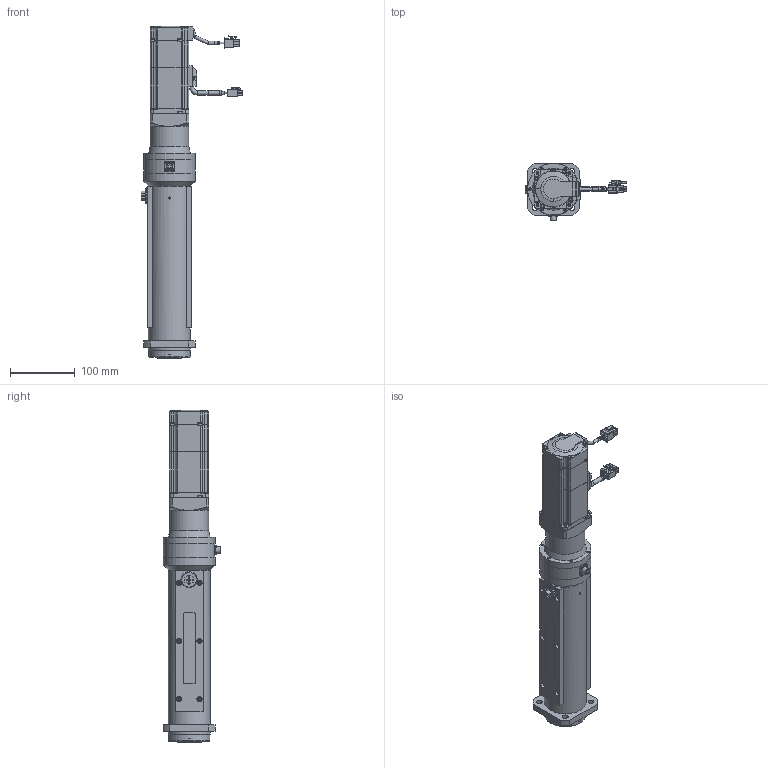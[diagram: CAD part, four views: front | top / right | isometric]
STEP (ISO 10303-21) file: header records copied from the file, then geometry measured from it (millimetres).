
FILE_DESCRIPTION( ('This file contains a STEP AP42 implementation' ,'as created by ZW3D STEP Interface translator.') ,'2;1' );
FILE_NAME( 'OACIS-DC-P001-P002-150-200-D_V20.01.stp' ,'25 3 8. 84415', (''), ('ZWCAD Software Co.'), 'Version 1.0', 'ZW3D to STEP translator', '' );
FILE_SCHEMA(('AUTOMOTIVE_DESIGN { 1 0 10303 214 1 1 1 1 }'));
Length unit declared in the file: millimetre
Products named in the file (2): 0; OACIS-DC-P001-P002-150-200-D_V20.01
Bounding box: 157.94 x 88.7 x 514.5 mm (x, y, z)
Volume: 1434199.4 mm3; surface area: 336050.9 mm2
Topology: 16 solids, 25 shells, 1527 faces, 4016 edges, 2683 vertices
Faces by surface type: plane 847, cylinder 451, cone 156, torus 48, sphere 15, bspline 10
Full cylindrical faces by diameter (mm): 1 x17, 1.567 x4, 1.754 x2, 1.755 x2, 1.82 x4, 2 x5, 2.2 x4, 2.5 x8, 2.6 x15, 3.242 x8, 3.3 x29, 3.4 x4, 4.134 x9, 4.3 x12, 4.5 x17, 5 x3, 5.1 x2, 5.5 x8, 6 x13, 6.5 x4, 6.799 x3, 7.8 x1, 8 x12, 8.5 x1, 9 x5, 10.5 x1, 14 x1, 16.5 x1, 18 x1, 20 x1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
Entity records: 50450 total; most frequent: CARTESIAN_POINT 10018, DIRECTION 8222, ORIENTED_EDGE 7924, EDGE_CURVE 3962, AXIS2_PLACEMENT_3D 2927, VERTEX_POINT 2680, VECTOR 2368, LINE 2368
